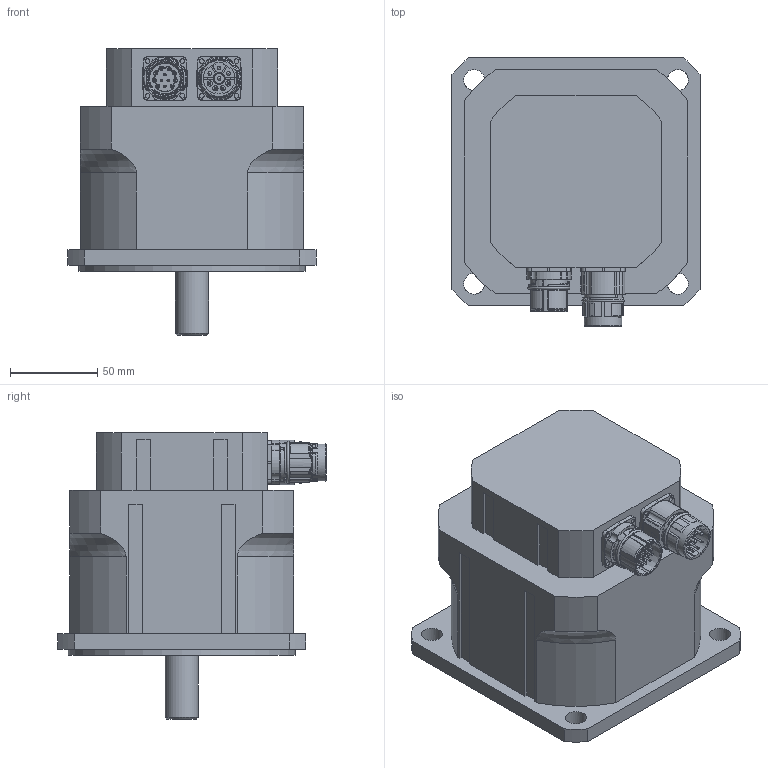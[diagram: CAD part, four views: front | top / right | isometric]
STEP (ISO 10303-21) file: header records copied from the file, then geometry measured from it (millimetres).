
FILE_DESCRIPTION(/* description */ (''),/* implementation_level */ '2;1');
FILE_NAME(/* name */ 'C:\PDF_output\T5019 00 Z_0210.stp',/* time_stamp */ '2014-11-19T10:45:34+01:00',/* author */ ('oslejsek'),/* organization */ (''),/* preprocessor_version */ 'ST-DEVELOPER v15.6',/* originating_system */ 'Autodesk Inventor 2015',/* authorisation */ '');
FILE_SCHEMA (('AUTOMOTIVE_DESIGN { 1 0 10303 214 3 1 1 }'));
Length unit declared in the file: millimetre
Products named in the file (4): T5019 00_0210; BEG_0200-8-polig; AEG_0201 12-pol; T5019 00 Z_0210
Assembly tree (3 placements, depth 2):
  T5019 00 Z_0210
    T5019 00_0210
    BEG_0200-8-polig
    AEG_0201 12-pol
Bounding box: 142 x 153.75 x 164 mm (x, y, z)
Volume: 1755896.3 mm3; surface area: 112906.1 mm2
Topology: 3 solids, 3 shells, 1019 faces, 2653 edges, 1688 vertices
Faces by surface type: cylinder 338, plane 313, bspline 164, torus 113, cone 64, sphere 27
Full cylindrical faces by diameter (mm): 1 x16, 1.18 x12, 1.3 x4, 2 x4, 2.15 x4, 2.7 x8, 3 x4, 4.134 x1, 5.8 x1, 6.8 x1, 12 x4, 17.1 x1, 17.4 x1, 17.7 x1, 19 x1, 19.8 x1, 20 x2, 21.15 x2, 21.5 x1, 21.6 x1, 130 x1
Entity records: 37780 total; most frequent: CARTESIAN_POINT 12980, DIRECTION 4978, ORIENTED_EDGE 4880, EDGE_CURVE 2440, AXIS2_PLACEMENT_3D 2049, VERTEX_POINT 1607, EDGE_LOOP 1215, CIRCLE 1101
